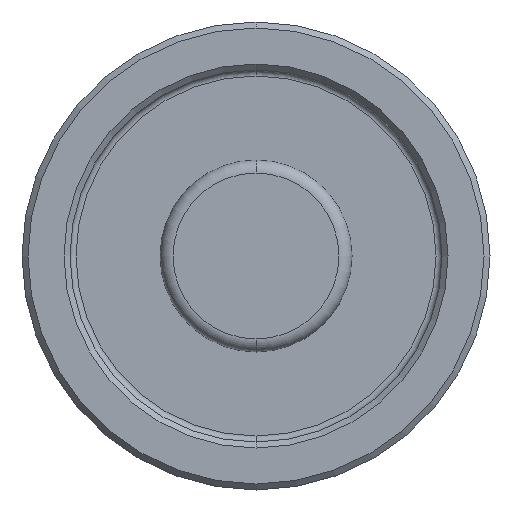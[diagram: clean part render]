
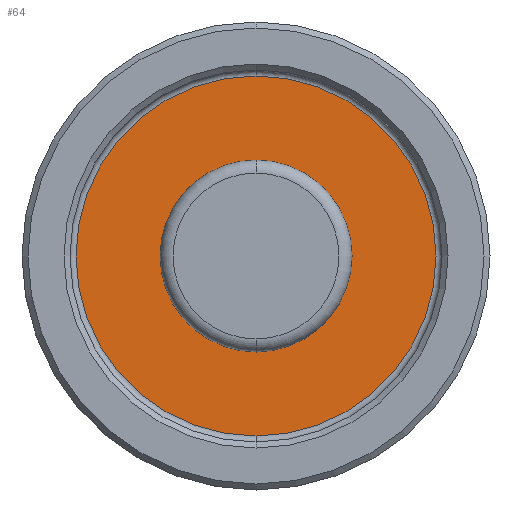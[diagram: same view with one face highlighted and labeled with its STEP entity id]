
A CAD part, front view. The second image highlights one B-rep face of the part: STEP entity #64.
In plain terms, the highlighted planar face has unit normal (0, -1, 0).
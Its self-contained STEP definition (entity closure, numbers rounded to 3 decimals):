
#64=ADVANCED_FACE('NONE',(#157,#158),#159,.T.);
#157=FACE_OUTER_BOUND('',#280,.T.);
#158=FACE_BOUND('',#281,.T.);
#159=PLANE('',#282);
#280=EDGE_LOOP('',(#402,#403));
#281=EDGE_LOOP('',(#404,#405));
#282=AXIS2_PLACEMENT_3D('',#406,#407,#408);
#402=ORIENTED_EDGE('',*,*,#692,.T.);
#403=ORIENTED_EDGE('',*,*,#693,.T.);
#404=ORIENTED_EDGE('',*,*,#694,.T.);
#405=ORIENTED_EDGE('',*,*,#695,.T.);
#406=CARTESIAN_POINT('',(-15.5,5.0,0.0));
#407=DIRECTION('',(0.0,-1.0,0.0));
#408=DIRECTION('',(0.0,0.0,-1.0));
#692=EDGE_CURVE('NONE',#806,#807,#808,.T.);
#693=EDGE_CURVE('NONE',#807,#806,#809,.T.);
#694=EDGE_CURVE('NONE',#810,#811,#812,.T.);
#695=EDGE_CURVE('NONE',#811,#810,#813,.T.);
#806=VERTEX_POINT('NONE',#959);
#807=VERTEX_POINT('NONE',#960);
#808=CIRCLE('',#961,15.0);
#809=CIRCLE('',#962,15.0);
#810=VERTEX_POINT('NONE',#963);
#811=VERTEX_POINT('NONE',#964);
#812=CIRCLE('',#965,8.0);
#813=CIRCLE('',#966,8.0);
#959=CARTESIAN_POINT('',(0.0,5.0,-15.0));
#960=CARTESIAN_POINT('',(0.,5.0,15.0));
#961=AXIS2_PLACEMENT_3D('',#1122,#1123,#1124);
#962=AXIS2_PLACEMENT_3D('',#1125,#1126,#1127);
#963=CARTESIAN_POINT('',(0.0,5.0,-8.0));
#964=CARTESIAN_POINT('',(0.,5.0,8.0));
#965=AXIS2_PLACEMENT_3D('',#1128,#1129,#1130);
#966=AXIS2_PLACEMENT_3D('',#1131,#1132,#1133);
#1122=CARTESIAN_POINT('',(0.0,5.0,0.0));
#1123=DIRECTION('',(0.0,-1.0,0.0));
#1124=DIRECTION('',(0.0,0.0,-1.0));
#1125=CARTESIAN_POINT('',(0.0,5.0,0.0));
#1126=DIRECTION('',(0.0,-1.0,0.0));
#1127=DIRECTION('',(0.0,0.0,-1.0));
#1128=CARTESIAN_POINT('',(0.0,5.0,0.0));
#1129=DIRECTION('',(0.0,1.0,0.0));
#1130=DIRECTION('',(0.0,0.0,-1.0));
#1131=CARTESIAN_POINT('',(0.0,5.0,0.0));
#1132=DIRECTION('',(0.0,1.0,0.0));
#1133=DIRECTION('',(0.0,0.0,-1.0));
